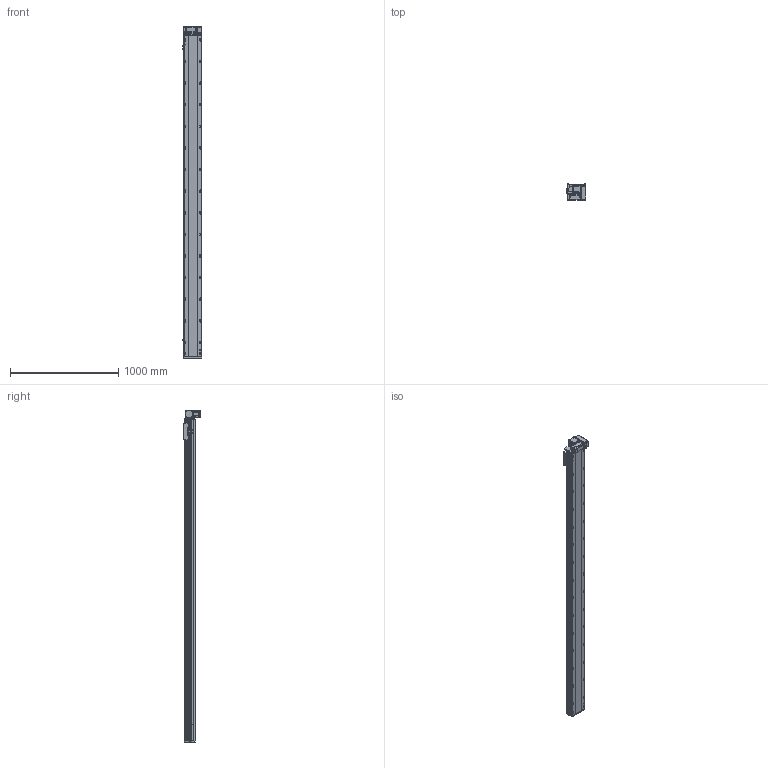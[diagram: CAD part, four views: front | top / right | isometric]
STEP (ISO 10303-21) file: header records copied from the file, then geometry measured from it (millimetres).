
FILE_DESCRIPTION (( 'STEP AP214' ), '1' );
FILE_NAME ('RTB17S-XX-2700-RM-M40-C4.STEP', '2025-12-11T08:32:52', ( '' ), ( '' ), 'SwSTEP 2.0', 'SolidWorks 2018', '' );
FILE_SCHEMA (( 'AUTOMOTIVE_DESIGN' ));
Length unit declared in the file: millimetre
Products named in the file (14): RTB17S-RM-々湍釱蚾饜-400W^RTB17S-XX-XX-RM-M40-C4; RTH13-BL-012覜茼え俋离^RTB17S-XX-XX-RM-M40-C4; RTB17S-L-007奻裔^RTB17S-XX-XX-RM-M40-C4; RTB14-L-018P^RTB17S-RM-々湍釱蚾饜-400W_RTB17S-XX-XX-RM-M40-C4; OMRON EE-SX672 传感器^RTB17S-XX-XX-RM-M40-C4; RTB17S-L-001耜醱啣^RTB17S-XX-XX-RM-M40-C4; RTB17-R-011菁釱^RTB17S-XX-XX-RM-M40-C4; RTB17S-XX-2700-RM-M40-C4; RTB14-L-017P^RTB17S-RM-々湍釱蚾饜-400W_RTB17S-XX-XX-RM-M40-C4; 400W侜督萇儂^RTB17S-XX-XX-RM-M40-C4; RTB14-L-008-M20--萇儂啣^RTB17S-RM-々湍釱蚾饜-400W_RTB17S-XX-XX-RM-M40-C4; RTB14-L-005P--轴承塑胶压盖^RTB17S-RM-皮带座装配-400W_RTB17S-XX-XX-RM-M40-C4; RTB17S-L-004佪裝蹟譫蟀諉釱^RTB17S-XX-XX-RM-M40-C4; RTB17S-L-014-T20--々湍釱^RTB17S-RM-々湍釱蚾饜-400W_RTB17S-XX-XX-RM-M40-C4
Assembly tree (16 placements, depth 3):
  RTB17S-XX-2700-RM-M40-C4
    RTB17-R-011菁釱^RTB17S-XX-XX-RM-M40-C4
    RTB17S-L-007奻裔^RTB17S-XX-XX-RM-M40-C4
    OMRON EE-SX672 传感器^RTB17S-XX-XX-RM-M40-C4  x3
    RTB17S-L-001耜醱啣^RTB17S-XX-XX-RM-M40-C4
    400W侜督萇儂^RTB17S-XX-XX-RM-M40-C4
    RTB17S-L-004佪裝蹟譫蟀諉釱^RTB17S-XX-XX-RM-M40-C4
    RTH13-BL-012覜茼え俋离^RTB17S-XX-XX-RM-M40-C4
    RTB17S-RM-々湍釱蚾饜-400W^RTB17S-XX-XX-RM-M40-C4
      RTB17S-L-014-T20--々湍釱^RTB17S-RM-々湍釱蚾饜-400W_RTB17S-XX-XX-RM-M40-C4
      RTB14-L-005P--轴承塑胶压盖^RTB17S-RM-皮带座装配-400W_RTB17S-XX-XX-RM-M40-C4
      RTB14-L-008-M20--萇儂啣^RTB17S-RM-々湍釱蚾饜-400W_RTB17S-XX-XX-RM-M40-C4
      RTB14-L-017P^RTB17S-RM-々湍釱蚾饜-400W_RTB17S-XX-XX-RM-M40-C4  x2
      RTB14-L-018P^RTB17S-RM-々湍釱蚾饜-400W_RTB17S-XX-XX-RM-M40-C4
Bounding box: 183.5 x 156.5 x 3072.5 mm (x, y, z)
Volume: 26235082.5 mm3; surface area: 3010759.5 mm2
Topology: 15 solids, 15 shells, 2349 faces, 6573 edges, 4293 vertices
Faces by surface type: plane 1086, cylinder 815, bspline 301, cone 139, torus 8
Entity records: 69545 total; most frequent: CARTESIAN_POINT 19778, ORIENTED_EDGE 9990, DIRECTION 9206, EDGE_CURVE 4995, VERTEX_POINT 3281, AXIS2_PLACEMENT_3D 3211, LINE 2784, VECTOR 2784
